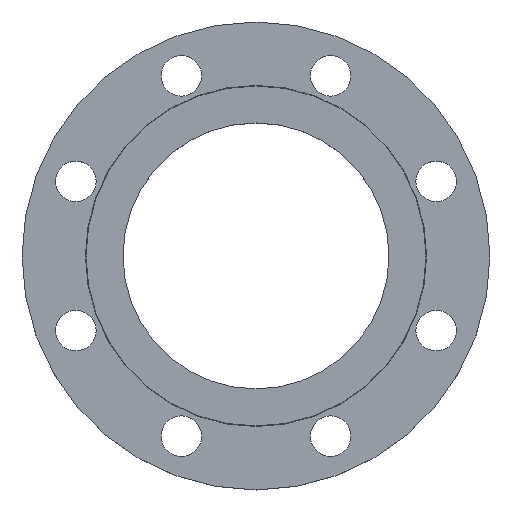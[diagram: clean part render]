
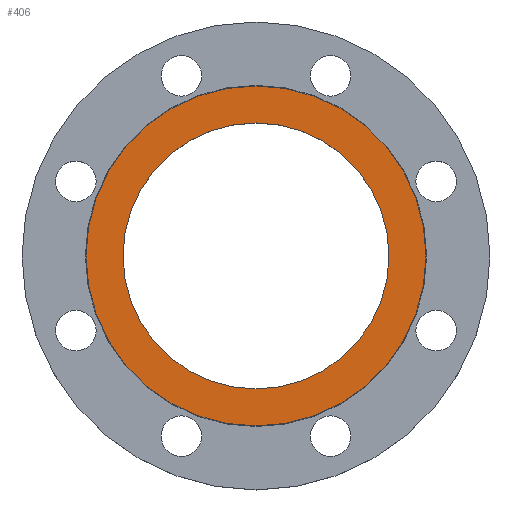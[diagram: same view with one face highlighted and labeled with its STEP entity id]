
A CAD part, top view. The second image highlights one B-rep face of the part: STEP entity #406.
In plain terms, the highlighted planar face has unit normal (0, 0, 1).
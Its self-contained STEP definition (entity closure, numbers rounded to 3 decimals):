
#4 = AXIS2_PLACEMENT_3D ( 'NONE', #319, #318, #317 ) ;
#9 = AXIS2_PLACEMENT_3D ( 'NONE', #348, #347, #346 ) ;
#19 = CIRCLE ( 'NONE', #21, 85.25 ) ;
#21 = AXIS2_PLACEMENT_3D ( 'NONE', #562, #563, #564 ) ;
#49 = EDGE_CURVE ( 'NONE', #734, #624, #233, .T. ) ;
#193 = CARTESIAN_POINT ( 'NONE',  ( 109., 0., 0. ) ) ;
#217 = CARTESIAN_POINT ( 'NONE',  ( 85.25, 0., 0. ) ) ;
#229 = AXIS2_PLACEMENT_3D ( 'NONE', #882, #883, #884 ) ;
#233 = CIRCLE ( 'NONE', #229, 109. ) ;
#254 = CARTESIAN_POINT ( 'NONE',  ( -85.25, 0., 0. ) ) ;
#255 = CARTESIAN_POINT ( 'NONE',  ( -109., 0., 0. ) ) ;
#257 = EDGE_CURVE ( 'NONE', #626, #678, #19, .T. ) ;
#317 = DIRECTION ( 'NONE',  ( -1., 0., 0. ) ) ;
#318 = DIRECTION ( 'NONE',  ( 0., 0., -1. ) ) ;
#319 = CARTESIAN_POINT ( 'NONE',  ( 0., 0., 0. ) ) ;
#327 = CIRCLE ( 'NONE', #9, 109. ) ;
#346 = DIRECTION ( 'NONE',  ( -1., 0., 0. ) ) ;
#347 = DIRECTION ( 'NONE',  ( 0., 0., -1. ) ) ;
#348 = CARTESIAN_POINT ( 'NONE',  ( 0., 0., 0. ) ) ;
#357 = CIRCLE ( 'NONE', #4, 85.25 ) ;
#367 = FACE_BOUND ( 'NONE', #774, .T. ) ;
#379 = DIRECTION ( 'NONE',  ( 1., 0., 0. ) ) ;
#381 = DIRECTION ( 'NONE',  ( 0., 0., 1. ) ) ;
#382 = CARTESIAN_POINT ( 'NONE',  ( 0., 0., 0. ) ) ;
#383 = PLANE ( 'NONE',  #421 ) ;
#386 = FACE_OUTER_BOUND ( 'NONE', #618, .T. ) ;
#406 = ADVANCED_FACE ( 'NONE', ( #367, #386 ), #383, .T. ) ;
#421 = AXIS2_PLACEMENT_3D ( 'NONE', #382, #381, #379 ) ;
#495 = EDGE_CURVE ( 'NONE', #624, #734, #327, .T. ) ;
#562 = CARTESIAN_POINT ( 'NONE',  ( 0., 0., 0. ) ) ;
#563 = DIRECTION ( 'NONE',  ( 0., 0., -1. ) ) ;
#564 = DIRECTION ( 'NONE',  ( -1., 0., 0. ) ) ;
#567 = EDGE_CURVE ( 'NONE', #678, #626, #357, .T. ) ;
#618 = EDGE_LOOP ( 'NONE', ( #748, #749 ) ) ;
#624 = VERTEX_POINT ( 'NONE', #255 ) ;
#626 = VERTEX_POINT ( 'NONE', #254 ) ;
#678 = VERTEX_POINT ( 'NONE', #217 ) ;
#734 = VERTEX_POINT ( 'NONE', #193 ) ;
#743 = ORIENTED_EDGE ( 'NONE', *, *, #257, .T. ) ;
#747 = ORIENTED_EDGE ( 'NONE', *, *, #567, .T. ) ;
#748 = ORIENTED_EDGE ( 'NONE', *, *, #495, .F. ) ;
#749 = ORIENTED_EDGE ( 'NONE', *, *, #49, .F. ) ;
#774 = EDGE_LOOP ( 'NONE', ( #743, #747 ) ) ;
#882 = CARTESIAN_POINT ( 'NONE',  ( 0., 0., 0. ) ) ;
#883 = DIRECTION ( 'NONE',  ( 0., 0., -1. ) ) ;
#884 = DIRECTION ( 'NONE',  ( -1., 0., 0. ) ) ;
